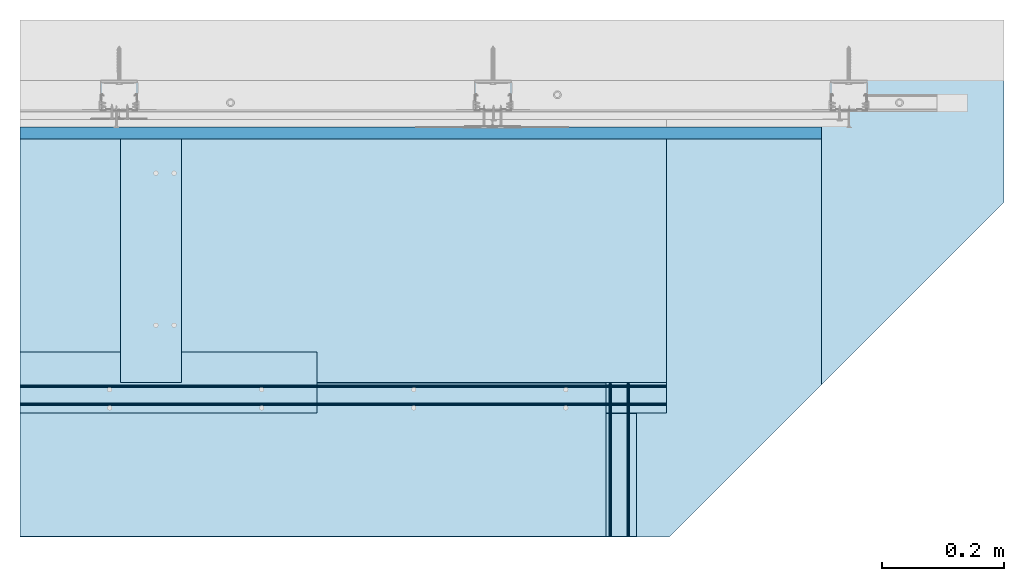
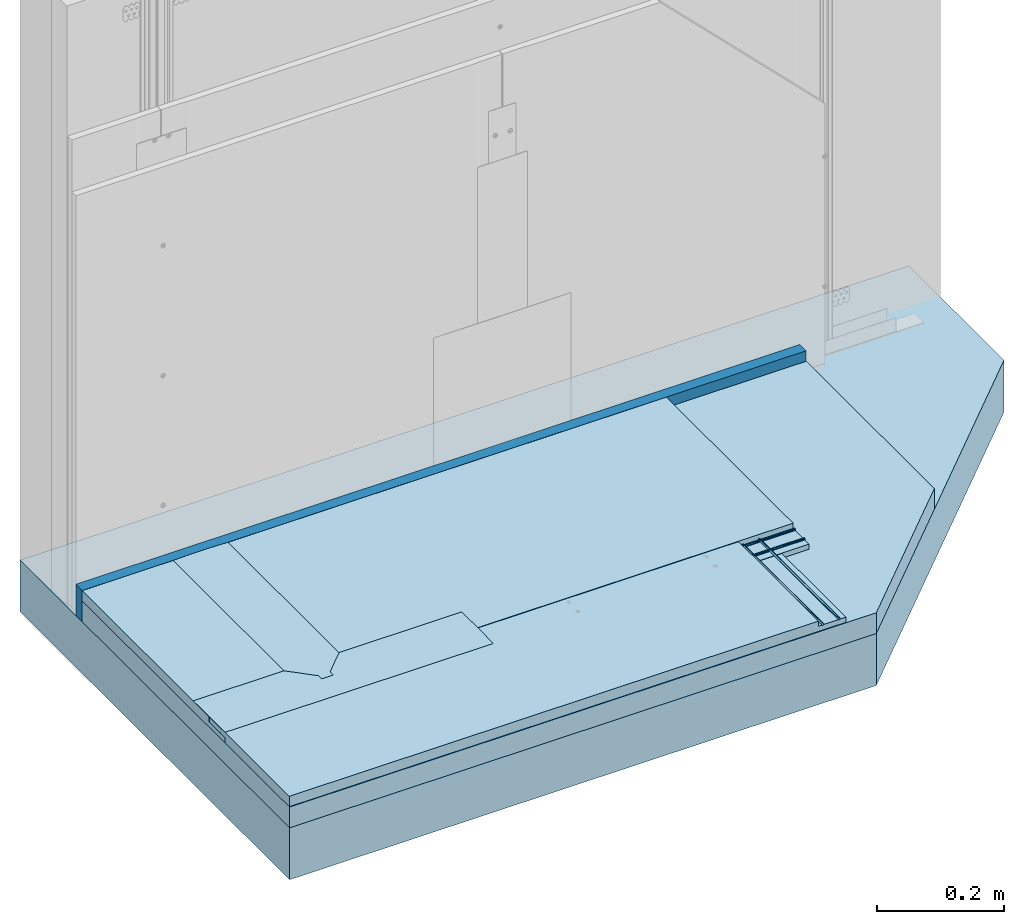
# One storey, part 1 of 47: 12 slabs.
"""IFC2X3 building model written with IfcOpenShell, lengths in millimetres."""

from ifc_helpers import new_model, entity, si_unit, converted_unit, direction, frame, origin, origin_with_axes, place, context, project, spatial, faceted_brep, element, save


model = new_model("IFC2X3")

# Units and contexts
model_context = context("Model", 3, precision=1e-05, world=origin(), true_north=direction((0.0, 1.0, 0.0)))
ifc_project = project(units=[si_unit("LENGTHUNIT", "METRE", prefix="MILLI"), si_unit("AREAUNIT", "SQUARE_METRE"), si_unit("VOLUMEUNIT", "CUBIC_METRE"), converted_unit("PLANEANGLEUNIT", "DEGREE", entity("IfcPlaneAngleMeasure", 0.01745), si_unit("PLANEANGLEUNIT", "RADIAN"), dimensions=[0, 0, 0, 0, 0, 0, 0]), si_unit("SOLIDANGLEUNIT", "STERADIAN"), si_unit("MASSUNIT", "GRAM"), si_unit("TIMEUNIT", "SECOND"), si_unit("THERMODYNAMICTEMPERATUREUNIT", "DEGREE_CELSIUS"), si_unit("LUMINOUSINTENSITYUNIT", "LUMEN")], contexts=[model_context])

# Site, building, storey
site_placement = place(None, origin_with_axes())
site = spatial("IfcSite", under=ifc_project, at=site_placement, Name="Default Site", CompositionType="ELEMENT")
building_placement = place(site_placement, origin_with_axes())
building = spatial("IfcBuilding", under=site, at=building_placement, Name="Default Building", CompositionType="ELEMENT")
storey_placement = place(building_placement, origin_with_axes())
storey = spatial("IfcBuildingStorey", under=building, at=storey_placement, Name="Default Building Storey", CompositionType="ELEMENT", Elevation=0.0)

# Slabs
slab_1_placement = place(storey_placement, frame((2035.13538431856, 1946.180077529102, 112.3840257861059), z_axis=(-3.991906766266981e-16, -1.0, 7.606725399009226e-13), x_axis=(5.468922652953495e-13, -7.606725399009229e-13, -1.0)))
element("IfcSlab", 1, at=slab_1_placement, inside=storey, Name="Dylatacja Isover Twist", context=model_context, shape_type="Brep", body=[
    faceted_brep([(109.9999999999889, 89.88974915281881, 8.525771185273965e-15), (49.99999999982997, 89.8897491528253, -1.79625277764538e-12), (49.99999999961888, 1407.90523390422, -2.032198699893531e-12), (109.9999999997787, 1407.905233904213, 1.335355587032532e-13), (109.9999999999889, 89.88974915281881, 20.00000000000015), (109.9999999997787, 1407.905233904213, 20.00000000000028), (49.99999999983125, 89.8897491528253, 19.99999999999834), (49.99999999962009, 1407.90523390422, 19.99999999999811)], [[[0, 1, 2, 3]], [[4, 0, 3, 5]], [[6, 4, 5, 7]], [[1, 6, 7, 2]], [[2, 7, 5, 3]], [[6, 1, 0, 4]]]),
])
slab_2_placement = place(storey_placement, frame((2129.636102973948, 1961.180077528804, 2.384025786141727), z_axis=(-5.468922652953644e-13, 7.605545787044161e-13, 1.0), x_axis=(1.839770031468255e-13, -1.0, 7.605545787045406e-13)))
element("IfcSlab", 2, at=slab_2_placement, inside=storey, Name="Wełna ISOVER", context=model_context, shape_type="Brep", body=[
    faceted_brep([(439.0391547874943, 1313.404515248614, 40.00000000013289), (689.0391547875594, 1063.404515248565, 39.99999999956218), (689.0391547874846, 1063.40451524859, -5.027911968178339e-10), (439.0391547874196, 1313.404515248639, 6.791346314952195e-11), (34.99999999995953, 1313.404515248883, 2.102124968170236e-10), (689.0391547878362, -4.61096950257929, 8.734231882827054e-12), (34.99999999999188, -4.610969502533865, -2.02428010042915e-15), (689.0391547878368, -4.610969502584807, 40.00000000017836), (34.99999999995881, 1313.40451524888, 40.0000000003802), (34.99999999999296, -4.610969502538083, 40.00000000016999)], [[[0, 1, 2, 3]], [[4, 3, 2, 5, 6]], [[7, 1, 0, 8, 9]], [[4, 6, 9, 8]], [[0, 3, 4, 8]], [[5, 7, 9, 6]], [[5, 2, 1, 7]]]),
])
slab_3_placement = place(storey_placement, frame((3093.429648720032, 1115.259408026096, 52.38402578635), z_axis=(6.768328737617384e-13, -3.912031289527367e-13, 1.0), x_axis=(1.0, -9.568615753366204e-14, -6.768328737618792e-13)))
element("IfcSlab", 3, at=slab_3_placement, inside=storey, Name="Klej RIGIPS Rigidur", context=model_context, shape_type="Brep", body=[
    faceted_brep([(0.06862830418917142, 156.8815147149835, 2.51942834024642), (4.198897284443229e-11, 156.8815147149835, 2.001853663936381), (0.06766833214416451, 156.8815147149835, 1.484152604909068), (0.2670218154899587, 156.8815147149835, 1.001605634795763), (0.5844748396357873, 156.8815147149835, 0.5870975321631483), (0.9983935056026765, 156.8815147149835, 0.2688763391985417), (1.480569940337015, 156.8815147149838, 0.06862830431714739), (1.998144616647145, 156.8815147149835, 1.705966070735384e-10), (2.515845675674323, 156.8815147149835, 0.06766833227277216), (2.998392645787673, 156.8815147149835, 0.2670218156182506), (3.412900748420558, 156.8815147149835, 0.5844748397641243), (3.731121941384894, 156.8815147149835, 0.9983935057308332), (3.931369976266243, 156.8815147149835, 1.480569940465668), (3.999998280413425, 156.8815147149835, 1.998144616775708), (3.93232994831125, 156.8815147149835, 2.515845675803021), (3.732976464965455, 156.8815147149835, 2.998392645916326), (3.415523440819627, 156.8815147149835, 3.412900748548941), (3.001604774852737, 156.8815147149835, 3.731121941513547), (2.519428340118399, 156.8815147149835, 3.931369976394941), (2.001853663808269, 156.8815147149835, 3.999998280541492), (1.484152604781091, 156.8815147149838, 3.932329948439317), (1.001605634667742, 156.8815147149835, 3.732976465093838), (0.5870975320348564, 156.8815147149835, 3.415523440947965), (0.2688763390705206, 156.8815147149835, 3.001604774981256), (0.06766833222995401, 408.9206695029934, 1.484152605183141), (1.277784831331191e-10, 408.9206695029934, 2.001853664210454), (0.06862830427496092, 408.9206695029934, 2.519428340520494), (0.2688763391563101, 408.9206695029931, 3.001604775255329), (0.5870975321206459, 408.9206695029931, 3.415523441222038), (1.001605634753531, 408.9206695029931, 3.732976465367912), (1.484152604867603, 408.9206695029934, 3.93232994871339), (2.001853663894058, 408.9206695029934, 3.999998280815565), (2.519428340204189, 408.9206695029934, 3.931369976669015), (3.001604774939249, 408.9206695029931, 3.73112194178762), (3.415523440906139, 408.9206695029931, 3.412900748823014), (3.732976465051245, 408.9206695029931, 2.998392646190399), (3.932329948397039, 408.9206695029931, 2.515845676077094), (3.999998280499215, 408.9206695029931, 1.998144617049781), (3.931369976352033, 408.9206695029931, 1.480569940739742), (3.731121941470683, 408.9206695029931, 0.9983935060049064), (3.412900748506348, 408.9206695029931, 0.5844748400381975), (2.998392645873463, 408.9206695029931, 0.2670218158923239), (2.515845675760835, 408.9206695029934, 0.0676683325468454), (1.998144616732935, 408.9206695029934, 4.446698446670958e-10), (1.480569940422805, 408.9206695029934, 0.06862830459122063), (0.9983935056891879, 408.9206695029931, 0.268876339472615), (0.5844748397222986, 408.9206695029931, 0.5870975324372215), (0.2670218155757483, 408.9206695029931, 1.001605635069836)], [[[0, 1, 2, 3, 4, 5, 6, 7, 8, 9, 10, 11, 12, 13, 14, 15, 16, 17, 18, 19, 20, 21, 22, 23]], [[24, 25, 26, 27, 28, 29, 30, 31, 32, 33, 34, 35, 36, 37, 38, 39, 40, 41, 42, 43, 44, 45, 46, 47]], [[38, 37, 13, 12]], [[25, 24, 2, 1]], [[39, 38, 12, 11]], [[37, 36, 14, 13]], [[47, 46, 4, 3]], [[43, 42, 8, 7]], [[42, 41, 9, 8]], [[35, 34, 16, 15]], [[36, 35, 15, 14]], [[26, 25, 1, 0]], [[41, 40, 10, 9]], [[27, 26, 0, 23]], [[40, 39, 11, 10]], [[33, 32, 18, 17]], [[32, 31, 19, 18]], [[44, 43, 7, 6]], [[45, 44, 6, 5]], [[46, 45, 5, 4]], [[34, 33, 17, 16]], [[24, 47, 3, 2]], [[28, 27, 23, 22]], [[29, 28, 22, 21]], [[30, 29, 21, 20]], [[31, 30, 20, 19]]]),
])
slab_4_placement = place(storey_placement, frame((2635.413335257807, 1929.464806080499, -3328.172695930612), z_axis=(-2.310572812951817e-13, -1.0, -7.60739176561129e-13), x_axis=(1.0, -1.879096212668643e-13, -5.473768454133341e-13)))
element("IfcSlab", 4, at=slab_4_placement, inside=storey, Name="Dedykowana masa szpachlowa Rigips - konstrukcyjna", context=model_context, shape_type="Brep", body=[
    faceted_brep([(-244.9836865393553, 3390.55672171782, 3.284728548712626), (-344.983686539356, 3390.556721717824, 3.284728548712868), (-324.984505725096, 3391.196716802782, 3.28472854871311), (-304.9840961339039, 3391.516720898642, 3.284728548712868), (-284.9832769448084, 3391.516720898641, 3.284728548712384), (-264.9828673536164, 3391.196716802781, 3.284728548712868), (-304.9840961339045, 3391.516720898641, 403.2847285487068), (-324.9845057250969, 3391.196716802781, 403.2847285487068), (-344.9836865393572, 3390.556721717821, 403.2847285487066), (-244.9836865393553, 3390.556721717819, 403.2847285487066), (-264.9828673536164, 3391.19671680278, 403.2847285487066), (-284.9832769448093, 3391.516720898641, 403.2847285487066)], [[[0, 1, 2, 3, 4, 5]], [[6, 7, 8, 9, 10, 11]], [[9, 0, 5, 10]], [[10, 5, 4, 11]], [[11, 4, 3, 6]], [[6, 3, 2, 7]], [[1, 8, 7, 2]], [[0, 9, 8, 1]]]),
])
slab_5_placement = place(storey_placement, frame((2126.455340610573, 1821.163764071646, -3328.172695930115), z_axis=(1.0, -1.87349305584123e-13, -5.470768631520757e-13), x_axis=(2.310619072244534e-13, 1.0, 7.60069998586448e-13)))
element("IfcSlab", 5, at=slab_5_placement, inside=storey, Name="Dedykowana masa szpachlowa Rigips - konstrukcyjna", context=model_context, shape_type="Brep", body=[
    faceted_brep([(-244.9836865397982, 3390.556721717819, -1.430207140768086), (-344.9836865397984, 3390.556721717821, -1.430207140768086), (-324.9845057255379, 3391.196716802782, -1.430207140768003), (-304.9840961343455, 3391.516720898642, -1.430207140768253), (-284.9832769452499, 3391.516720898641, -1.430207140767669), (-264.9828673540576, 3391.19671680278, -1.430207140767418), (-304.9840961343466, 3391.516720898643, 487.0243173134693), (-324.9845057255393, 3391.196716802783, 487.0243173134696), (-344.9836865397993, 3390.556721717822, 487.0243173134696), (-244.9836865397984, 3390.556721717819, 487.0243173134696), (-264.9828673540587, 3391.196716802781, 487.0243173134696), (-284.9832769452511, 3391.516720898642, 487.0243173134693)], [[[0, 1, 2, 3, 4, 5]], [[6, 7, 8, 9, 10, 11]], [[9, 0, 5, 10]], [[10, 5, 4, 11]], [[11, 4, 3, 6]], [[6, 3, 2, 7]], [[1, 8, 7, 2]], [[0, 9, 8, 1]]]),
])
slab_6_placement = place(storey_placement, frame((2125.025133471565, 1492.180077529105, 52.38402578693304), z_axis=(0.0, 0.0, 1.0), x_axis=(-9.243293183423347e-16, -1.0, 0.0)))
element("IfcSlab", 6, at=slab_6_placement, inside=storey, Name="Klej RIGIPS Rigidur", context=model_context, shape_type="Brep", body=[
    faceted_brep([(0.06766833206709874, 1063.404515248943, 1.484152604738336), (-3.507680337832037e-11, 1063.404515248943, 2.001853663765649), (0.06862830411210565, 1063.404515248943, 2.519428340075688), (0.2688763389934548, 1063.404515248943, 3.001604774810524), (0.5870975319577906, 1063.404515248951, 3.415523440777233), (1.001605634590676, 1063.404515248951, 3.732976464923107), (1.484152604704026, 1063.404515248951, 3.932329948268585), (2.001853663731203, 1063.404515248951, 3.999998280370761), (2.519428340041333, 1063.404515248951, 3.93136997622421), (3.001604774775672, 1063.404515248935, 3.731121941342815), (3.415523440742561, 1063.404515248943, 3.412900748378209), (3.732976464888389, 1063.404515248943, 2.998392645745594), (3.932329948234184, 1063.404515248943, 2.515845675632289), (3.999998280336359, 1063.404515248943, 1.998144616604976), (3.931369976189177, 1063.404515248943, 1.480569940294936), (3.731121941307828, 1063.404515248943, 0.9983935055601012), (3.412900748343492, 1063.404515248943, 0.5844748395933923), (2.998392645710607, 1063.404515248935, 0.2670218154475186), (2.515845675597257, 1063.404515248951, 0.0676683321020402), (1.99814461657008, 1063.404515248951, -1.353583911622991e-13), (1.48056994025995, 1063.404515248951, 0.06862830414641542), (0.9983935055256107, 1063.404515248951, 0.2688763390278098), (0.5844748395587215, 1063.404515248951, 0.5870975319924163), (0.267021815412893, 1063.404515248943, 1.001605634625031), (3.999998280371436, 7.676838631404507e-12, 1.998144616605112), (3.931369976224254, 7.676838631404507e-12, 1.480569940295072), (0.06766833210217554, 0.0, 1.484152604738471), (0.0, 0.0, 2.001853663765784), (3.731121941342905, 7.676838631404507e-12, 0.9983935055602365), (3.932329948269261, 7.676838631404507e-12, 2.515845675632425), (0.5844748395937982, 7.676838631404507e-12, 0.5870975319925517), (0.2670218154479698, 0.0, 1.001605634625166), (2.515845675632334, 0.0, 0.06766833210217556), (1.998144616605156, 0.0, 0.0), (2.998392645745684, 0.0, 0.267021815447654), (3.415523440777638, 7.676838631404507e-12, 3.412900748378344), (3.732976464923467, 7.676838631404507e-12, 2.99839264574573), (0.06862830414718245, 0.0, 2.519428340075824), (3.412900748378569, 7.676838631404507e-12, 0.5844748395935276), (0.2688763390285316, 0.0, 3.001604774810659), (2.51942834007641, 0.0, 3.931369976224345), (3.001604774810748, 0.0, 3.731121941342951), (2.00185366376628, 0.0, 3.999998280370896), (1.480569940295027, 1.535367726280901e-11, 0.06862830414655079), (0.9983935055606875, 7.676838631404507e-12, 0.2688763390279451), (0.5870975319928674, 7.676838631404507e-12, 3.415523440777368), (1.001605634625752, 7.676838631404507e-12, 3.732976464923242), (1.484152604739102, 1.535367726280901e-11, 3.93232994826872)], [[[0, 1, 2, 3, 4, 5, 6, 7, 8, 9, 10, 11, 12, 13, 14, 15, 16, 17, 18, 19, 20, 21, 22, 23]], [[14, 13, 24, 25]], [[1, 0, 26, 27]], [[15, 14, 25, 28]], [[13, 12, 29, 24]], [[23, 22, 30, 31]], [[19, 18, 32, 33]], [[18, 17, 34, 32]], [[11, 10, 35, 36]], [[12, 11, 36, 29]], [[2, 1, 27, 37]], [[17, 16, 38, 34]], [[3, 2, 37, 39]], [[16, 15, 28, 38]], [[9, 8, 40, 41]], [[8, 7, 42, 40]], [[20, 19, 33, 43]], [[21, 20, 43, 44]], [[22, 21, 44, 30]], [[10, 9, 41, 35]], [[0, 23, 31, 26]], [[4, 3, 39, 45]], [[5, 4, 45, 46]], [[6, 5, 46, 47]], [[7, 6, 47, 42]]]),
])
slab_7_placement = place(storey_placement, frame((3123.429648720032, 1115.259408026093, 52.38402578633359), z_axis=(6.768328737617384e-13, -3.912031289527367e-13, 1.0), x_axis=(1.0, -9.568615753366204e-14, -6.768328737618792e-13)))
element("IfcSlab", 7, at=slab_7_placement, inside=storey, Name="Klej RIGIPS Rigidur", context=model_context, shape_type="Brep", body=[
    faceted_brep([(0.06862830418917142, 156.8815147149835, 2.51942834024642), (4.198897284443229e-11, 156.8815147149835, 2.001853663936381), (0.06766833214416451, 156.8815147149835, 1.484152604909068), (0.2670218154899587, 156.8815147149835, 1.001605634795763), (0.5844748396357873, 156.8815147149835, 0.5870975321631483), (0.9983935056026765, 156.8815147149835, 0.2688763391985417), (1.480569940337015, 156.8815147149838, 0.06862830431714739), (1.998144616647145, 156.8815147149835, 1.705966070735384e-10), (2.515845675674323, 156.8815147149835, 0.06766833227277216), (2.998392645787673, 156.8815147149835, 0.2670218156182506), (3.412900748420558, 156.8815147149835, 0.5844748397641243), (3.731121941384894, 156.8815147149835, 0.9983935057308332), (3.931369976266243, 156.8815147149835, 1.480569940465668), (3.999998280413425, 156.8815147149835, 1.998144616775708), (3.93232994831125, 156.8815147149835, 2.515845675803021), (3.732976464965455, 156.8815147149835, 2.998392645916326), (3.415523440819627, 156.8815147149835, 3.412900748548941), (3.001604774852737, 156.8815147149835, 3.731121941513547), (2.519428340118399, 156.8815147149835, 3.931369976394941), (2.001853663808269, 156.8815147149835, 3.999998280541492), (1.484152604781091, 156.8815147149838, 3.932329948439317), (1.001605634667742, 156.8815147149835, 3.732976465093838), (0.5870975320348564, 156.8815147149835, 3.415523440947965), (0.2688763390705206, 156.8815147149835, 3.001604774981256), (0.06766833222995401, 408.9206695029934, 1.484152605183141), (1.277784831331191e-10, 408.9206695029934, 2.001853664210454), (0.06862830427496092, 408.9206695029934, 2.519428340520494), (0.2688763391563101, 408.9206695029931, 3.001604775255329), (0.5870975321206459, 408.9206695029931, 3.415523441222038), (1.001605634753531, 408.9206695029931, 3.732976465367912), (1.484152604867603, 408.9206695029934, 3.93232994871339), (2.001853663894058, 408.9206695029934, 3.999998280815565), (2.519428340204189, 408.9206695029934, 3.931369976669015), (3.001604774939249, 408.9206695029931, 3.73112194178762), (3.415523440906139, 408.9206695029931, 3.412900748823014), (3.732976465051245, 408.9206695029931, 2.998392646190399), (3.932329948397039, 408.9206695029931, 2.515845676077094), (3.999998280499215, 408.9206695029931, 1.998144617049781), (3.931369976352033, 408.9206695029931, 1.480569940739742), (3.731121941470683, 408.9206695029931, 0.9983935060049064), (3.412900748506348, 408.9206695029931, 0.5844748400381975), (2.998392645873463, 408.9206695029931, 0.2670218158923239), (2.515845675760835, 408.9206695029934, 0.0676683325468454), (1.998144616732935, 408.9206695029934, 4.446698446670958e-10), (1.480569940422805, 408.9206695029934, 0.06862830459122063), (0.9983935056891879, 408.9206695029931, 0.268876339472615), (0.5844748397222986, 408.9206695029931, 0.5870975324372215), (0.2670218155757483, 408.9206695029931, 1.001605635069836)], [[[0, 1, 2, 3, 4, 5, 6, 7, 8, 9, 10, 11, 12, 13, 14, 15, 16, 17, 18, 19, 20, 21, 22, 23]], [[24, 25, 26, 27, 28, 29, 30, 31, 32, 33, 34, 35, 36, 37, 38, 39, 40, 41, 42, 43, 44, 45, 46, 47]], [[38, 37, 13, 12]], [[25, 24, 2, 1]], [[39, 38, 12, 11]], [[37, 36, 14, 13]], [[47, 46, 4, 3]], [[43, 42, 8, 7]], [[42, 41, 9, 8]], [[35, 34, 16, 15]], [[36, 35, 15, 14]], [[26, 25, 1, 0]], [[41, 40, 10, 9]], [[27, 26, 0, 23]], [[40, 39, 11, 10]], [[33, 32, 18, 17]], [[32, 31, 19, 18]], [[44, 43, 7, 6]], [[45, 44, 6, 5]], [[46, 45, 5, 4]], [[34, 33, 17, 16]], [[24, 47, 3, 2]], [[28, 27, 23, 22]], [[29, 28, 22, 21]], [[30, 29, 21, 20]], [[31, 30, 20, 19]]]),
])
slab_8_placement = place(storey_placement, frame((2125.025133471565, 1522.180077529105, 52.38402578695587), z_axis=(0.0, 0.0, 1.0), x_axis=(-9.243293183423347e-16, -1.0, 0.0)))
element("IfcSlab", 8, at=slab_8_placement, inside=storey, Name="Klej RIGIPS Rigidur", context=model_context, shape_type="Brep", body=[
    faceted_brep([(0.06766833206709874, 1063.404515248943, 1.484152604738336), (-3.507680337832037e-11, 1063.404515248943, 2.001853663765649), (0.06862830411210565, 1063.404515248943, 2.519428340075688), (0.2688763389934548, 1063.404515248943, 3.001604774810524), (0.5870975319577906, 1063.404515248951, 3.415523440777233), (1.001605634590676, 1063.404515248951, 3.732976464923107), (1.484152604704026, 1063.404515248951, 3.932329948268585), (2.001853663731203, 1063.404515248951, 3.999998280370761), (2.519428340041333, 1063.404515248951, 3.93136997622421), (3.001604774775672, 1063.404515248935, 3.731121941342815), (3.415523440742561, 1063.404515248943, 3.412900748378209), (3.732976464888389, 1063.404515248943, 2.998392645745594), (3.932329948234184, 1063.404515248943, 2.515845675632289), (3.999998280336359, 1063.404515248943, 1.998144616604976), (3.931369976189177, 1063.404515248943, 1.480569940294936), (3.731121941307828, 1063.404515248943, 0.9983935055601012), (3.412900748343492, 1063.404515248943, 0.5844748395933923), (2.998392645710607, 1063.404515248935, 0.2670218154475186), (2.515845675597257, 1063.404515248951, 0.0676683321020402), (1.99814461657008, 1063.404515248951, -1.353583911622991e-13), (1.48056994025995, 1063.404515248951, 0.06862830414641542), (0.9983935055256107, 1063.404515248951, 0.2688763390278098), (0.5844748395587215, 1063.404515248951, 0.5870975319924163), (0.267021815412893, 1063.404515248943, 1.001605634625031), (3.999998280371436, 7.676838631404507e-12, 1.998144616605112), (3.931369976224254, 7.676838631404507e-12, 1.480569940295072), (0.06766833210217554, 0.0, 1.484152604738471), (0.0, 0.0, 2.001853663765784), (3.731121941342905, 7.676838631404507e-12, 0.9983935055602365), (3.932329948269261, 7.676838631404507e-12, 2.515845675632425), (0.5844748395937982, 7.676838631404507e-12, 0.5870975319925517), (0.2670218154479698, 0.0, 1.001605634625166), (2.515845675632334, 0.0, 0.06766833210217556), (1.998144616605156, 0.0, 0.0), (2.998392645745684, 0.0, 0.267021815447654), (3.415523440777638, 7.676838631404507e-12, 3.412900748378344), (3.732976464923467, 7.676838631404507e-12, 2.99839264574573), (0.06862830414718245, 0.0, 2.519428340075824), (3.412900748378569, 7.676838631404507e-12, 0.5844748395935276), (0.2688763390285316, 0.0, 3.001604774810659), (2.51942834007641, 0.0, 3.931369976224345), (3.001604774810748, 0.0, 3.731121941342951), (2.00185366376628, 0.0, 3.999998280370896), (1.480569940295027, 1.535367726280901e-11, 0.06862830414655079), (0.9983935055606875, 7.676838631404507e-12, 0.2688763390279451), (0.5870975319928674, 7.676838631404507e-12, 3.415523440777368), (1.001605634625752, 7.676838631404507e-12, 3.732976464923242), (1.484152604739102, 1.535367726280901e-11, 3.93232994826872)], [[[0, 1, 2, 3, 4, 5, 6, 7, 8, 9, 10, 11, 12, 13, 14, 15, 16, 17, 18, 19, 20, 21, 22, 23]], [[14, 13, 24, 25]], [[1, 0, 26, 27]], [[15, 14, 25, 28]], [[13, 12, 29, 24]], [[23, 22, 30, 31]], [[19, 18, 32, 33]], [[18, 17, 34, 32]], [[11, 10, 35, 36]], [[12, 11, 36, 29]], [[2, 1, 27, 37]], [[17, 16, 38, 34]], [[3, 2, 37, 39]], [[16, 15, 28, 38]], [[9, 8, 40, 41]], [[8, 7, 42, 40]], [[20, 19, 33, 43]], [[21, 20, 43, 44]], [[22, 21, 44, 30]], [[10, 9, 41, 35]], [[0, 23, 31, 26]], [[4, 3, 39, 45]], [[5, 4, 45, 46]], [[6, 5, 46, 47]], [[7, 6, 47, 42]]]),
])
slab_9_placement = place(storey_placement, frame((3516.951496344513, -1288.142300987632, 6.58402578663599), z_axis=(7.620176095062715e-14, 6.858158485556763e-13, 1.0), x_axis=(1.0, 9.714451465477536e-17, -7.62017609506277e-14)))
element("IfcSlab", 9, at=slab_9_placement, inside=storey, Name="STROP", context=model_context, shape_type="Brep", body=[
    faceted_brep([(226.0891218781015, 3110.283223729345, -4.200000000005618), (-323.9108781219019, 2560.283223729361, -4.200000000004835), (-323.9108781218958, 2560.283223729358, -104.1999999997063), (226.0891218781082, 3110.283223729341, -104.1999999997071), (-1391.926362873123, 2560.283223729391, -104.2000000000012), (-1391.926362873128, 2560.28322372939, -4.200000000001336), (-1391.926362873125, 3410.28322372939, -104.2000000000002), (226.0891218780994, 3410.28322372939, -104.2000000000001), (-1391.926362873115, 3410.28322372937, -4.19999999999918), (226.089121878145, 3410.283223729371, -4.200000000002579)], [[[0, 1, 2, 3]], [[4, 2, 1, 5]], [[6, 7, 3, 2, 4]], [[8, 5, 1, 0, 9]], [[0, 3, 7, 9]], [[6, 8, 9, 7]], [[6, 4, 5, 8]]]),
])
slab_10_placement = place(storey_placement, frame((2125.025133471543, 1248.282231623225, 42.38402578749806), z_axis=(0.0, 0.0, 1.0), x_axis=(1.0, 0.0, 0.0)))
element("IfcSlab", 10, at=slab_10_placement, inside=storey, Name="RIGIPS Rigidur E20", context=model_context, shape_type="Brep", body=[
    faceted_brep([(963.4045152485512, 226.8978459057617, 9.999999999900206), (0.0, 226.8978459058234, 9.999999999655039), (3.248601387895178e-12, 276.8978459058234, 9.999999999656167), (963.4045152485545, 276.8978459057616, 9.999999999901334), (963.404515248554, 276.8978459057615, 19.99999999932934), (2.887645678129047e-12, 276.8978459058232, 19.9999999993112), (0.0, 226.8978459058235, 0.0), (1013.40451524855, 226.8978459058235, 9.999999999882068), (1013.40451524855, 226.8978459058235, 0.0), (963.4045152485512, 24.89784590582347, 9.999999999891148), (963.4045152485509, 24.8978459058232, 19.99999999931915), (-3.609557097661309e-13, 24.89784590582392, 19.99999999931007), (1013.40451524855, 24.89784590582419, 9.99999999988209), (1013.40451524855, 24.89784590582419, 2.819966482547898e-14), (0.0, 24.89784590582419, 0.0)], [[[0, 1, 2, 3]], [[4, 3, 2, 5]], [[6, 1, 0, 7, 8]], [[9, 0, 3, 4, 10]], [[11, 10, 4, 5]], [[7, 0, 9, 12]], [[13, 8, 7, 12]], [[14, 13, 12, 9, 10, 11]], [[6, 14, 11, 5, 2, 1]], [[14, 6, 8, 13]]]),
])
slab_11_placement = place(storey_placement, frame((2125.025133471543, 1753.077923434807, 62.38402578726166), z_axis=(0.0, -2.074729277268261e-15, -1.0), x_axis=(1.0, 0.0, 0.0)))
element("IfcSlab", 11, at=slab_11_placement, inside=storey, Name="RIGIPS Rigidur E20", context=model_context, shape_type="Brep", body=[
    faceted_brep([(1063.404515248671, -173.1021540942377, 9.999999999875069), (1063.404515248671, 226.8978459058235, 9.99999999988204), (1063.404515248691, 276.8978459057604, 9.99999999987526), (1063.40451524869, 276.8978459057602, 19.99999999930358), (1063.404515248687, -173.1021540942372, 19.99999999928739), (265.40451524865, -173.1021540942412, 9.999999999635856), (265.40451524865, 226.8978459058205, 9.99999999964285), (215.4045152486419, 226.8978459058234, 9.99999999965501), (215.4045152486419, -173.102154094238, 9.999999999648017), (215.4045152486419, -173.1021540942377, -7.02735647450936e-12), (215.4045152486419, 226.8978459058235, -3.383959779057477e-14), (265.4045152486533, 276.8978459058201, 9.999999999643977), (265.4045152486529, 276.89784590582, 19.99999999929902), (1063.404515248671, 226.8978459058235, -3.383959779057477e-14), (265.4045152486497, -173.1021540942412, 19.99999999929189), (1063.404515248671, -173.1021540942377, -6.993516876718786e-12)], [[[0, 1, 2, 3, 4]], [[5, 6, 7, 8]], [[9, 8, 7, 10]], [[1, 6, 11, 2]], [[12, 3, 2, 11]], [[13, 10, 7, 6, 1]], [[14, 4, 3, 12]], [[15, 13, 1, 0]], [[9, 15, 0, 4, 14, 5, 8]], [[11, 6, 5, 14, 12]], [[15, 9, 10, 13]]]),
])
slab_12_placement = place(storey_placement, frame((2112.531802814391, 862.7755622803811, 62.3840257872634), z_axis=(-7.621526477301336e-17, -2.12279754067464e-15, -1.0), x_axis=(-4.85722573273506e-14, 1.0, -2.122797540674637e-15)))
element("IfcSlab", 12, at=slab_12_placement, inside=storey, Name="RIGIPS Rigidur E20", context=model_context, shape_type="Brep", body=[
    faceted_brep([(1063.404515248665, 12.49333065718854, 9.99999999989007), (1063.404515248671, 226.8978459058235, 9.99999999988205), (1063.404515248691, 276.8978459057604, 9.99999999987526), (1063.40451524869, 276.8978459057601, 19.99999999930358), (1063.404515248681, 12.49333065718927, 19.99999999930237), (613.4045152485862, 12.49333065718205, 9.99999999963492), (613.404515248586, 226.8978459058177, 9.9999999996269), (663.4045152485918, 226.8978459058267, 9.999999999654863), (663.4045152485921, 12.49333065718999, 9.99999999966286), (663.4045152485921, 12.49333065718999, 7.816947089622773e-12), (663.4045152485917, 226.8978459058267, -1.804778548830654e-13), (613.4045152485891, 276.8978459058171, 9.99999999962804), (613.4045152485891, 276.8978459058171, 19.99999999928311), (1063.404515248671, 226.8978459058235, -2.255973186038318e-14), (613.404515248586, 12.49333065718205, 19.99999999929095), (1063.404515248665, 12.49333065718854, 8.00870481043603e-12)], [[[0, 1, 2, 3, 4]], [[5, 6, 7, 8]], [[9, 8, 7, 10]], [[1, 7, 6, 11, 2]], [[12, 3, 2, 11]], [[13, 10, 7, 1]], [[14, 4, 3, 12]], [[15, 13, 1, 0]], [[9, 15, 0, 4, 14, 5, 8]], [[11, 6, 5, 14, 12]], [[15, 9, 10, 13]]]),
])

save(model, "model.ifc")
